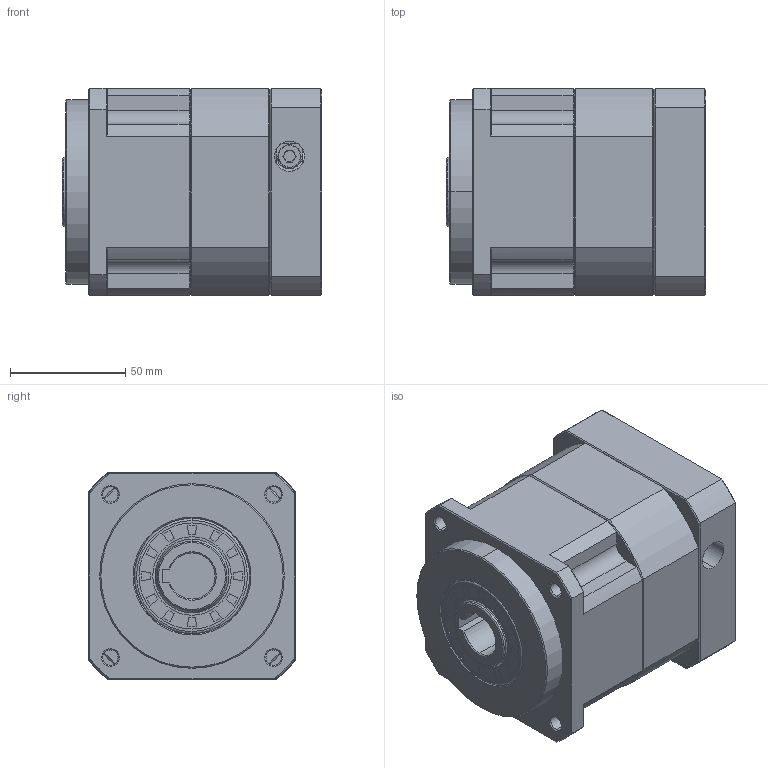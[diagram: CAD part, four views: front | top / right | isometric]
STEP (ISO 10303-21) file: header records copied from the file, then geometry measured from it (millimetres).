
FILE_DESCRIPTION (( 'STEP AP214' ), '1' );
FILE_NAME ('ZPB090-K20-L1-P1-8-38.1-47.14X47.14-M4.step', '2024-06-07T18:25:09', ( 'Windows 蚚誧' ), ( 'Organization' ), 'SwSTEP 2.0', 'SolidWorks 2016', '' );
FILE_SCHEMA (( 'AUTOMOTIVE_DESIGN' ));
Length unit declared in the file: millimetre
Products named in the file (1): ZPB090-K20-L1-P1-8-38.1-47.14X47.14-M4
Bounding box: 112.5 x 90 x 90 mm (x, y, z)
Surface area: 73746.3 mm2 (no closed solid volume)
Topology: 0 solids, 34 shells, 1796 faces, 4798 edges, 3066 vertices
Faces by surface type: plane 929, bspline 384, cone 270, cylinder 213
Entity records: 86761 total; most frequent: CARTESIAN_POINT 40206, ORIENTED_EDGE 9574, DIRECTION 7357, EDGE_CURVE 4798, LINE 3185, VECTOR 3185, VERTEX_POINT 3066, AXIS2_PLACEMENT_3D 2086
